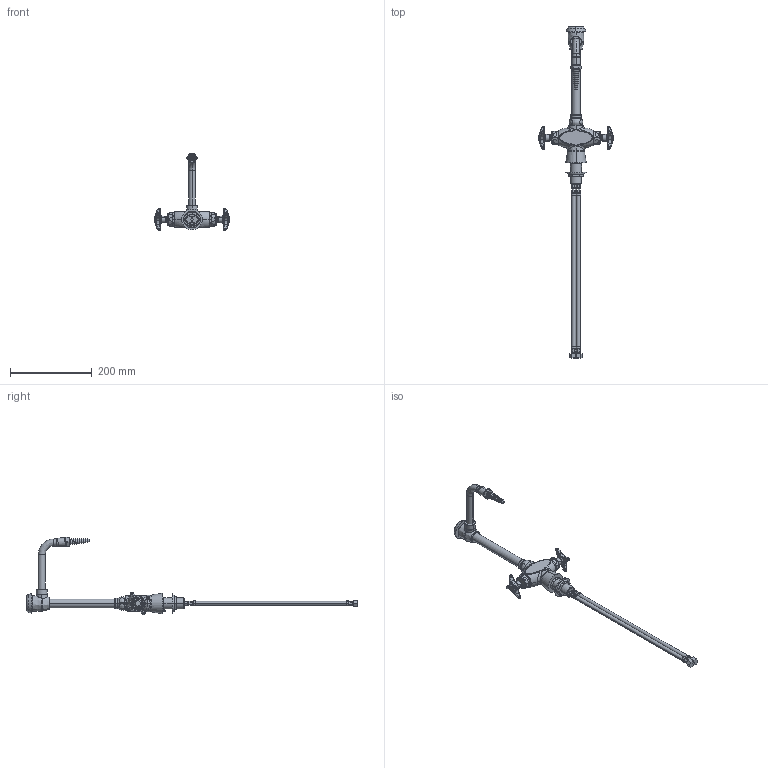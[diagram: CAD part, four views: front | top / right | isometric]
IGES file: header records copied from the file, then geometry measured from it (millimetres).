
Start section:  PTC IGES file: 930-vr_REV103013_SCHEDULE.igs
Global section: file name: 930-vr_REV103013_SCHEDULE.igs; native system: Creo Parametric by Parametric Technology Corporation; preprocessor: 2013050; author: SDmitruk; organization: Unknown; date: 20131030.135055; units: inch
Bounding box: 183.36 x 813.78 x 190.31 mm (x, y, z)
Surface area: 119491.4 mm2 (no closed solid volume)
Topology: 0 solids, 0 shells, 657 faces, 4643 edges, 6189 vertices
Faces by surface type: bspline 423, revolution 234
